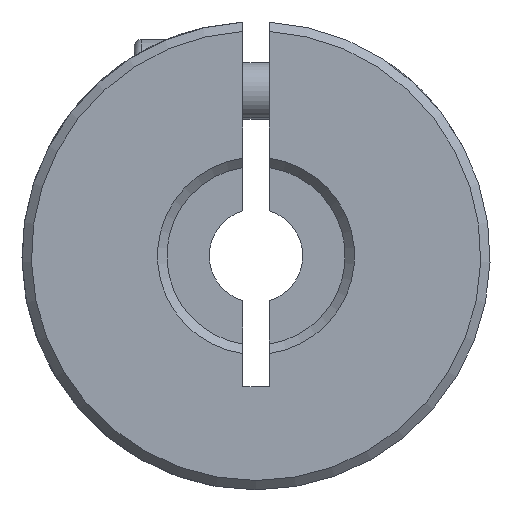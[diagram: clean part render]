
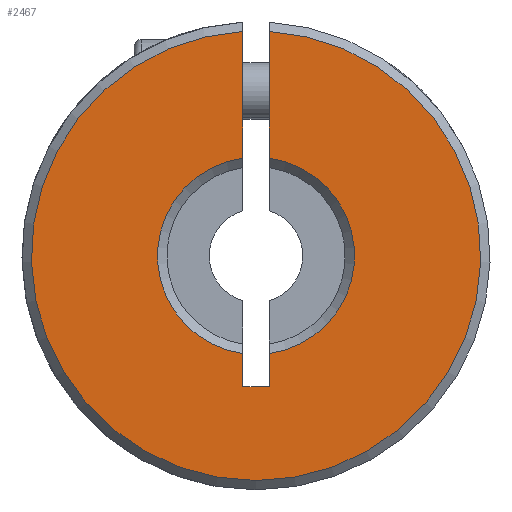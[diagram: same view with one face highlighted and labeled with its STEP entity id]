
A CAD part, front view. The second image highlights one B-rep face of the part: STEP entity #2467.
In plain terms, the highlighted planar face has unit normal (0, -1, 0).
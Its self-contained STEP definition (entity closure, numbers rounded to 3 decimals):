
#38 = EDGE_CURVE ( 'NONE', #1707, #4823, #5298, .T. ) ;
#40 = VECTOR ( 'NONE', #2727, 1000. ) ;
#67 = ORIENTED_EDGE ( 'NONE', *, *, #1389, .T. ) ;
#173 = CARTESIAN_POINT ( 'NONE',  ( -0.7, 0.25, -5.216 ) ) ;
#379 = AXIS2_PLACEMENT_3D ( 'NONE', #5067, #5041, #2514 ) ;
#431 = DIRECTION ( 'NONE',  ( 0., 0., 1. ) ) ;
#455 = VERTEX_POINT ( 'NONE', #173 ) ;
#550 = ORIENTED_EDGE ( 'NONE', *, *, #38, .T. ) ;
#809 = DIRECTION ( 'NONE',  ( 0., 0., 1. ) ) ;
#866 = ORIENTED_EDGE ( 'NONE', *, *, #2346, .F. ) ;
#956 = CARTESIAN_POINT ( 'NONE',  ( 0.7, 0.25, -7. ) ) ;
#1089 = CIRCLE ( 'NONE', #379, 12. ) ;
#1151 = CARTESIAN_POINT ( 'NONE',  ( 0., 0.25, 0. ) ) ;
#1156 = EDGE_LOOP ( 'NONE', ( #3089, #550, #2132, #866, #2429, #67, #4744, #5034 ) ) ;
#1207 = CARTESIAN_POINT ( 'NONE',  ( 0., 0.25, 0. ) ) ;
#1389 = EDGE_CURVE ( 'NONE', #455, #2850, #2031, .T. ) ;
#1434 = VECTOR ( 'NONE', #2629, 1000. ) ;
#1593 = AXIS2_PLACEMENT_3D ( 'NONE', #1151, #2807, #3097 ) ;
#1707 = VERTEX_POINT ( 'NONE', #3642 ) ;
#1736 = LINE ( 'NONE', #4278, #1873 ) ;
#1825 = EDGE_CURVE ( 'NONE', #2961, #4823, #3231, .T. ) ;
#1841 = CARTESIAN_POINT ( 'NONE',  ( -0.7, 0.25, -7. ) ) ;
#1873 = VECTOR ( 'NONE', #2952, 1000. ) ;
#1889 = PLANE ( 'NONE',  #4999 ) ;
#2031 = CIRCLE ( 'NONE', #1593, 5.263 ) ;
#2039 = VECTOR ( 'NONE', #2639, 1000. ) ;
#2066 = CARTESIAN_POINT ( 'NONE',  ( -0.7, 0.25, -7. ) ) ;
#2132 = ORIENTED_EDGE ( 'NONE', *, *, #1825, .F. ) ;
#2172 = DIRECTION ( 'NONE',  ( 0., 1., 0. ) ) ;
#2218 = LINE ( 'NONE', #4259, #1434 ) ;
#2283 = DIRECTION ( 'NONE',  ( 0., 0., 1. ) ) ;
#2313 = CARTESIAN_POINT ( 'NONE',  ( 12.5, 0.25, -50. ) ) ;
#2346 = EDGE_CURVE ( 'NONE', #3135, #2961, #2218, .T. ) ;
#2429 = ORIENTED_EDGE ( 'NONE', *, *, #2762, .F. ) ;
#2466 = CARTESIAN_POINT ( 'NONE',  ( 0.7, 0.25, -5.216 ) ) ;
#2467 = ADVANCED_FACE ( 'NONE', ( #4783 ), #1889, .F. ) ;
#2514 = DIRECTION ( 'NONE',  ( 0., 0., 1. ) ) ;
#2629 = DIRECTION ( 'NONE',  ( 1., 0., 0. ) ) ;
#2639 = DIRECTION ( 'NONE',  ( 0., 0., 1. ) ) ;
#2659 = DIRECTION ( 'NONE',  ( 0., 1., 0. ) ) ;
#2681 = AXIS2_PLACEMENT_3D ( 'NONE', #1207, #2172, #431 ) ;
#2727 = DIRECTION ( 'NONE',  ( 0., 0., -1. ) ) ;
#2762 = EDGE_CURVE ( 'NONE', #455, #3135, #1736, .T. ) ;
#2807 = DIRECTION ( 'NONE',  ( 0., 1., 0. ) ) ;
#2850 = VERTEX_POINT ( 'NONE', #3167 ) ;
#2952 = DIRECTION ( 'NONE',  ( 0., 0., -1. ) ) ;
#2961 = VERTEX_POINT ( 'NONE', #4496 ) ;
#2968 = VERTEX_POINT ( 'NONE', #5347 ) ;
#3089 = ORIENTED_EDGE ( 'NONE', *, *, #3198, .F. ) ;
#3097 = DIRECTION ( 'NONE',  ( 0., 0., 1. ) ) ;
#3135 = VERTEX_POINT ( 'NONE', #2066 ) ;
#3167 = CARTESIAN_POINT ( 'NONE',  ( -0.7, 0.25, 5.216 ) ) ;
#3198 = EDGE_CURVE ( 'NONE', #1707, #4095, #4712, .T. ) ;
#3231 = LINE ( 'NONE', #4155, #5188 ) ;
#3642 = CARTESIAN_POINT ( 'NONE',  ( 0.7, 0.25, 5.216 ) ) ;
#4095 = VERTEX_POINT ( 'NONE', #5201 ) ;
#4155 = CARTESIAN_POINT ( 'NONE',  ( 0.7, 0.25, -7. ) ) ;
#4259 = CARTESIAN_POINT ( 'NONE',  ( 0.7, 0.25, -7. ) ) ;
#4278 = CARTESIAN_POINT ( 'NONE',  ( -0.7, 0.25, -7. ) ) ;
#4283 = EDGE_CURVE ( 'NONE', #2968, #4095, #1089, .T. ) ;
#4496 = CARTESIAN_POINT ( 'NONE',  ( 0.7, 0.25, -7. ) ) ;
#4712 = LINE ( 'NONE', #956, #2039 ) ;
#4744 = ORIENTED_EDGE ( 'NONE', *, *, #5272, .F. ) ;
#4783 = FACE_OUTER_BOUND ( 'NONE', #1156, .T. ) ;
#4795 = LINE ( 'NONE', #1841, #40 ) ;
#4823 = VERTEX_POINT ( 'NONE', #2466 ) ;
#4999 = AXIS2_PLACEMENT_3D ( 'NONE', #2313, #2659, #2283 ) ;
#5034 = ORIENTED_EDGE ( 'NONE', *, *, #4283, .T. ) ;
#5041 = DIRECTION ( 'NONE',  ( 0., -1., 0. ) ) ;
#5067 = CARTESIAN_POINT ( 'NONE',  ( 0., 0.25, 0. ) ) ;
#5188 = VECTOR ( 'NONE', #809, 1000. ) ;
#5201 = CARTESIAN_POINT ( 'NONE',  ( 0.7, 0.25, 11.98 ) ) ;
#5272 = EDGE_CURVE ( 'NONE', #2968, #2850, #4795, .T. ) ;
#5298 = CIRCLE ( 'NONE', #2681, 5.263 ) ;
#5347 = CARTESIAN_POINT ( 'NONE',  ( -0.7, 0.25, 11.98 ) ) ;
